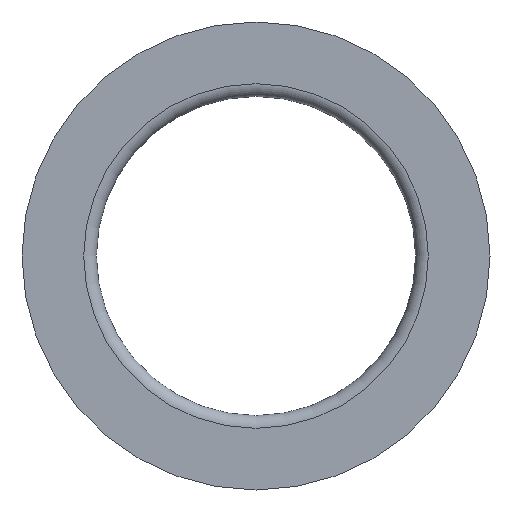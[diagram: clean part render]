
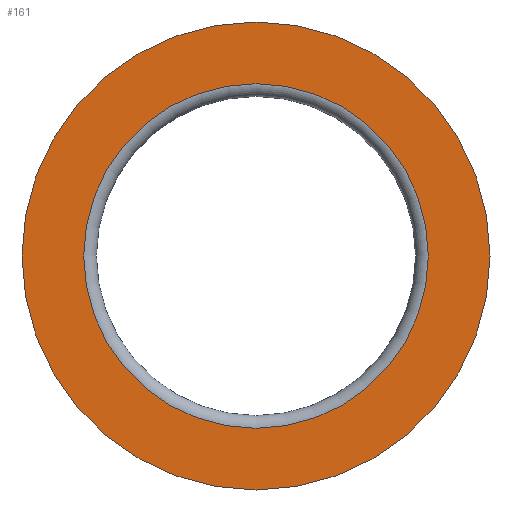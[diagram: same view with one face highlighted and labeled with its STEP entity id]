
A CAD part, left-side view. The second image highlights one B-rep face of the part: STEP entity #161.
In plain terms, the highlighted planar face has unit normal (-1, 0, 0).
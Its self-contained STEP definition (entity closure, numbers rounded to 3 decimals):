
#15=FACE_BOUND('',#46,.T.);
#18=PLANE('',#199);
#35=FACE_OUTER_BOUND('',#45,.T.);
#45=EDGE_LOOP('',(#120));
#46=EDGE_LOOP('',(#121));
#61=CIRCLE('',#197,40.5);
#63=CIRCLE('',#200,55.);
#76=VERTEX_POINT('',#288);
#77=VERTEX_POINT('',#292);
#91=EDGE_CURVE('',#76,#76,#61,.T.);
#93=EDGE_CURVE('',#77,#77,#63,.T.);
#120=ORIENTED_EDGE('',*,*,#93,.F.);
#121=ORIENTED_EDGE('',*,*,#91,.T.);
#161=ADVANCED_FACE('',(#35,#15),#18,.T.);
#197=AXIS2_PLACEMENT_3D('',#289,#235,#236);
#199=AXIS2_PLACEMENT_3D('',#291,#239,#240);
#200=AXIS2_PLACEMENT_3D('',#293,#241,#242);
#235=DIRECTION('center_axis',(1.,0.,0.));
#236=DIRECTION('ref_axis',(0.,0.,-1.));
#239=DIRECTION('center_axis',(-1.,0.,0.));
#240=DIRECTION('ref_axis',(0.,0.,1.));
#241=DIRECTION('center_axis',(1.,0.,0.));
#242=DIRECTION('ref_axis',(0.,0.,-1.));
#288=CARTESIAN_POINT('',(0.,0.,40.5));
#289=CARTESIAN_POINT('Origin',(0.,0.,0.));
#291=CARTESIAN_POINT('Origin',(0.,55.,0.));
#292=CARTESIAN_POINT('',(0.,-55.,0.));
#293=CARTESIAN_POINT('Origin',(0.,0.,0.));
